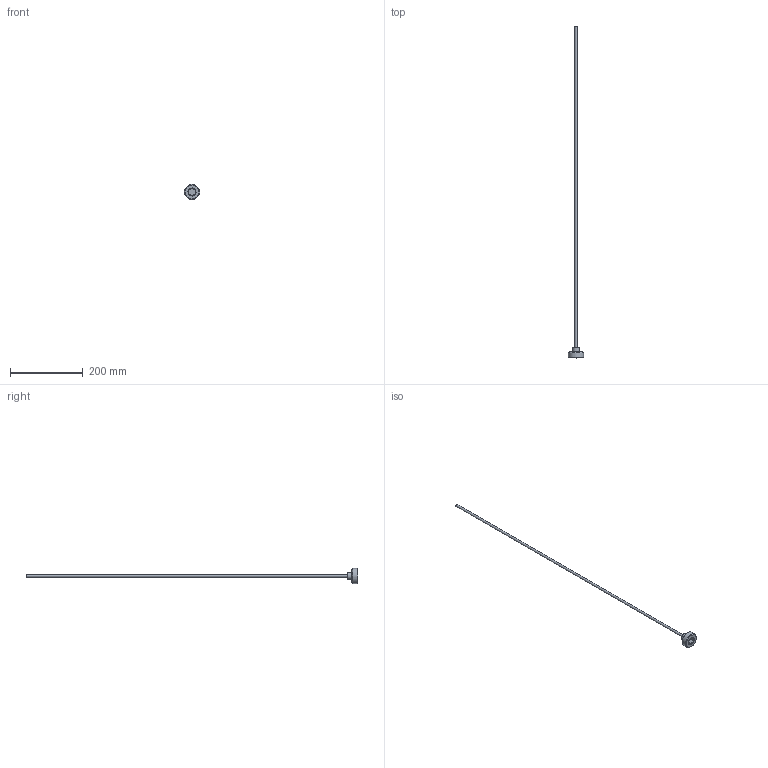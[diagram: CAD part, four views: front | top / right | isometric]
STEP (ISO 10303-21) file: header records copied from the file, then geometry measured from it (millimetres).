
FILE_DESCRIPTION(/* description */ (''),/* implementation_level */ '2;1');
FILE_NAME(/* name */ 'C:/Users/drich/Desktop/DR-1250 v1.step',/* time_stamp */ '2020-01-08T16:15:14-06:00',/* author */ (''),/* organization */ (''),/* preprocessor_version */ 'ST-DEVELOPER v18',/* originating_system */ 'Autodesk Translation Framework v8.12.0.6',/* authorisation */ '');
FILE_SCHEMA (('AUTOMOTIVE_DESIGN { 1 0 10303 214 3 1 1 }'));
Length unit declared in the file: inch
Products named in the file (1): DR-1250
Bounding box: 41.73 x 914.4 x 41.73 mm (x, y, z)
Volume: 49971.8 mm3; surface area: 23837.6 mm2
Topology: 2 solids, 2 shells, 20 faces, 51 edges, 37 vertices
Faces by surface type: plane 12, cylinder 3, cone 3, torus 2
Full cylindrical faces by diameter (mm): 6.35 x1, 19.05 x1, 41.73 x1
Entity records: 657 total; most frequent: CARTESIAN_POINT 133, ORIENTED_EDGE 102, DIRECTION 102, EDGE_CURVE 51, AXIS2_PLACEMENT_3D 42, VERTEX_POINT 37, EDGE_LOOP 22, CIRCLE 21
